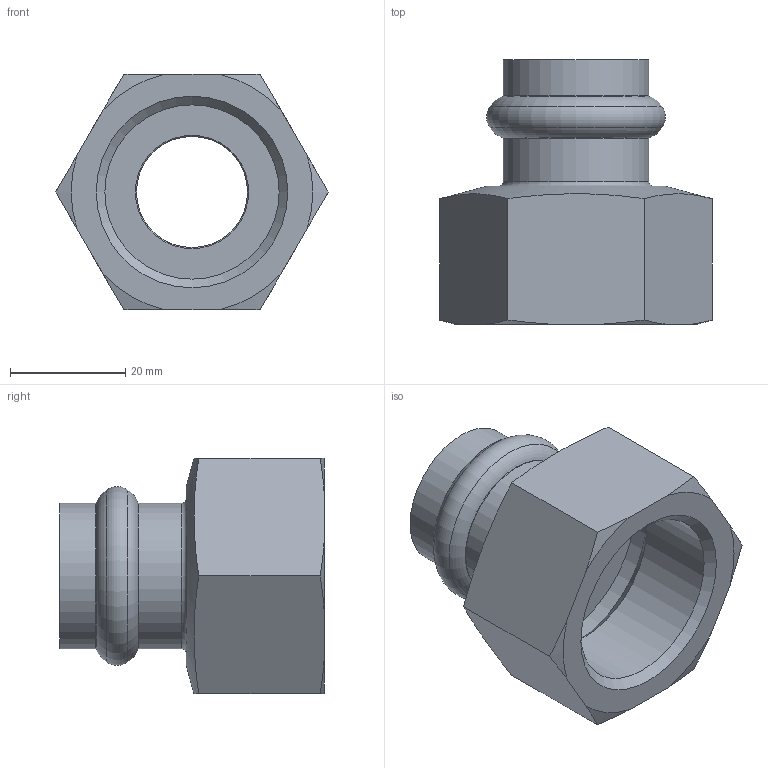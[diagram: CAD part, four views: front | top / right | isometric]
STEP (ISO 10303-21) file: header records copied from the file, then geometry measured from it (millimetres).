
FILE_DESCRIPTION(/* description */ (''),/* implementation_level */ '2;1');
FILE_NAME(/* name */ 'C:\Users\Vault\Desktop\Articoli_INOXPRES UNIKO\190_INOXPRES_UNIKO\190100022U_Inoxpres_Uniko.stp',/* time_stamp */ '2022-10-06T11:30:45+02:00',/* author */ ('Vault'),/* organization */ ('Raccorderie metalliche s.p.a.'),/* preprocessor_version */ 'ST-DEVELOPER v18.1',/* originating_system */ 'Autodesk Inventor 2020',/* authorisation */ 'Raccorderie metalliche s.p.a.');
FILE_SCHEMA (('AUTOMOTIVE_DESIGN { 1 0 10303 214 3 1 1 }'));
Length unit declared in the file: millimetre
Products named in the file (1): 190100022V_Inoxpres_Uniko
Bounding box: 47.34 x 46 x 41 mm (x, y, z)
Volume: 20822.4 mm3; surface area: 11624.4 mm2
Topology: 1 solids, 1 shells, 45 faces, 118 edges, 80 vertices
Faces by surface type: plane 13, cone 13, torus 10, cylinder 9
Full cylindrical faces by diameter (mm): 19.3 x1, 22.3 x4, 25.3 x2, 30.3 x1, 35 x1
Entity records: 1461 total; most frequent: CARTESIAN_POINT 282, DIRECTION 262, ORIENTED_EDGE 236, EDGE_CURVE 118, AXIS2_PLACEMENT_3D 117, VERTEX_POINT 80, CIRCLE 71, EDGE_LOOP 52
